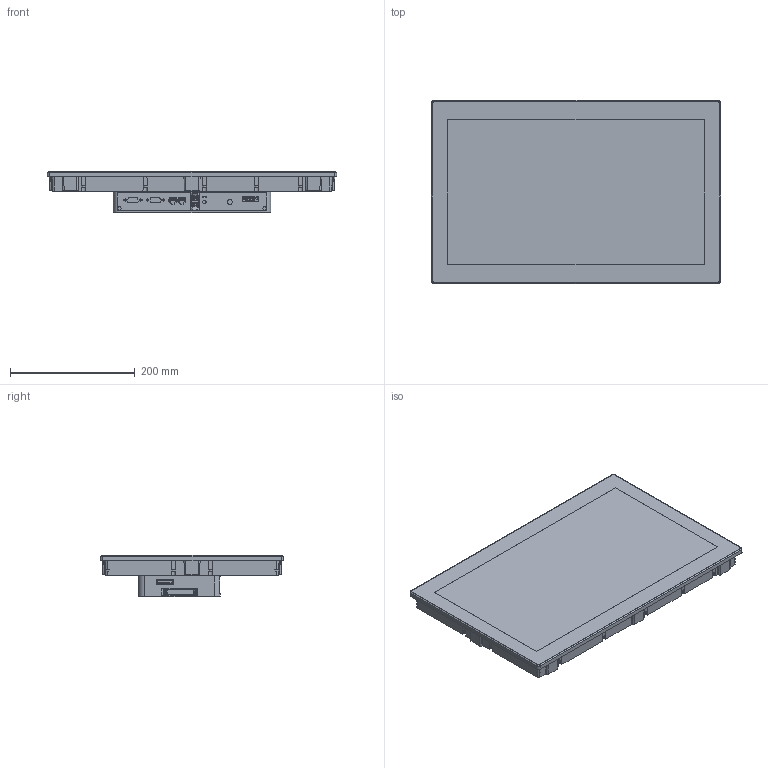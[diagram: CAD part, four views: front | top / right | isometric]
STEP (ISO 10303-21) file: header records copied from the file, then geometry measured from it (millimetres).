
FILE_DESCRIPTION (( 'STEP AP203' ), '1' );
FILE_NAME ('PFXGP6840WCDI_3D_simpl.STEP', '2024-05-29T10:07:35', ( '' ), ( '' ), 'SwSTEP 2.0', 'SolidWorks 2017', '' );
FILE_SCHEMA (( 'CONFIG_CONTROL_DESIGN' ));
Products named in the file (1): PFXGP6840WCDI_3D_simpl
Bounding box: 463.6 x 293.6 x 66.28 mm (x, y, z)
Volume: 5124525 mm3; surface area: 398645.1 mm2
Topology: 11 solids, 21 shells, 2724 faces, 7640 edges, 5036 vertices
Faces by surface type: plane 1994, cylinder 528, bspline 147, cone 55
Full cylindrical faces by diameter (mm): 2.5 x2, 2.8 x2, 2.845 x4, 3.5 x8, 4 x8, 4.1 x16, 5.6 x31, 8 x9, 8.454 x6
Entity records: 106557 total; most frequent: CARTESIAN_POINT 39087, ORIENTED_EDGE 14942, DIRECTION 12203, EDGE_CURVE 7471, VECTOR 5775, LINE 5775, VERTEX_POINT 4990, AXIS2_PLACEMENT_3D 3214
